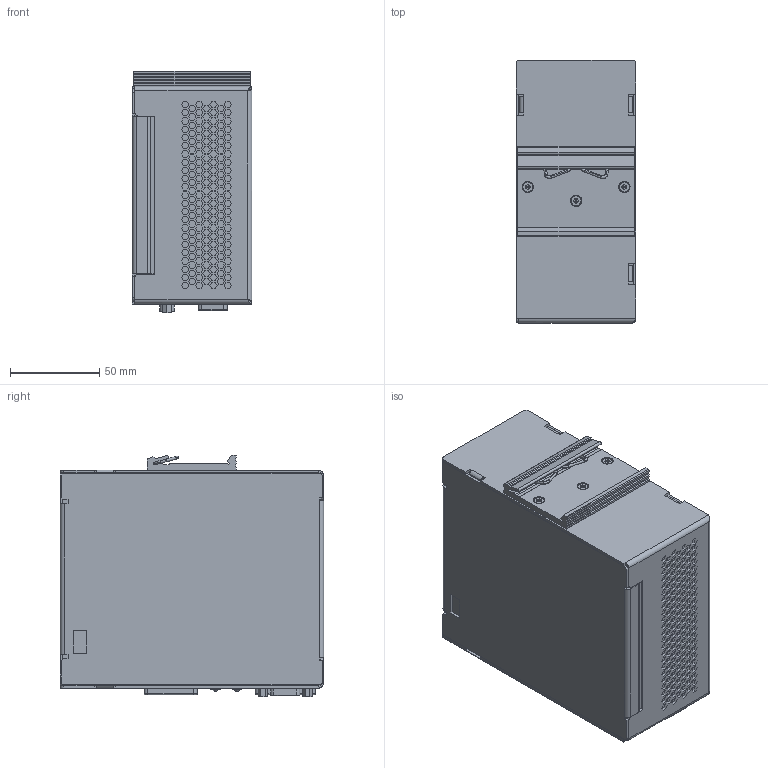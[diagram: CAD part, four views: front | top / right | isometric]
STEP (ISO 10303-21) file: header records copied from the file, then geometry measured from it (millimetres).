
FILE_DESCRIPTION (( 'STEP AP214' ), '1' );
FILE_NAME ('DC2412-UPSDP2.STEP', '2022-01-18T07:53:56', ( '' ), ( '' ), 'SwSTEP 2.0', 'SolidWorks 2021', '' );
FILE_SCHEMA (( 'AUTOMOTIVE_DESIGN' ));
Length unit declared in the file: millimetre
Products named in the file (1): DC2412-UPSDP2
Bounding box: 67.05 x 147.3 x 135.25 mm (x, y, z)
Volume: 1209923.3 mm3; surface area: 117933.9 mm2
Topology: 38 solids, 38 shells, 3784 faces, 9597 edges, 6275 vertices
Faces by surface type: plane 3269, cylinder 316, bspline 73, cone 64, torus 34, sphere 28
Entity records: 160904 total; most frequent: CARTESIAN_POINT 27940, ORIENTED_EDGE 19146, DIRECTION 17307, EDGE_CURVE 9573, LINE 8595, VECTOR 8595, VERTEX_POINT 6271, AXIS2_PLACEMENT_3D 4356
